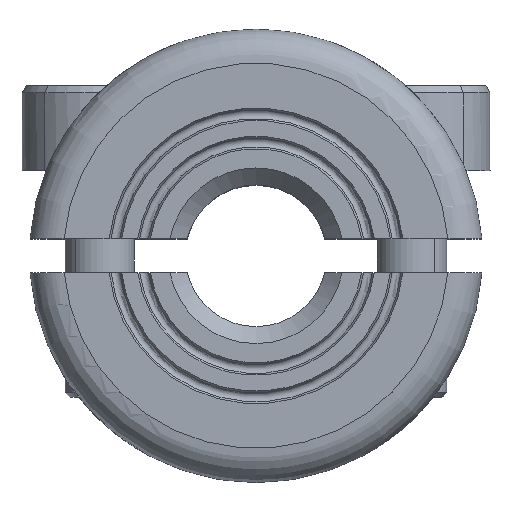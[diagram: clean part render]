
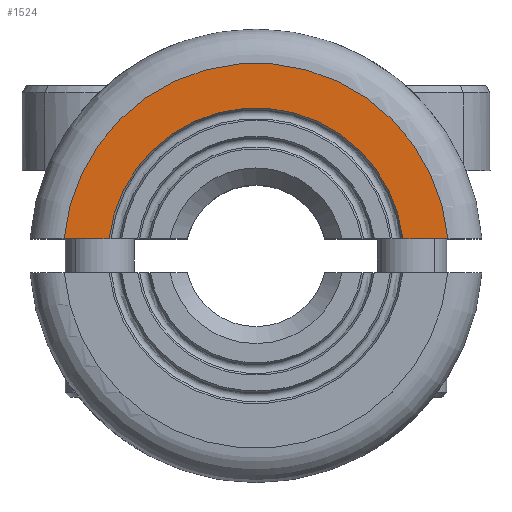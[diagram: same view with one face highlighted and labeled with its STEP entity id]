
A CAD part, top view. The second image highlights one B-rep face of the part: STEP entity #1524.
In plain terms, the highlighted planar face has unit normal (0, 0, 1).
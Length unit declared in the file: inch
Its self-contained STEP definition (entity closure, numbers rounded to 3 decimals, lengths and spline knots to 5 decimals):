
#131=CARTESIAN_POINT('',(0.26667,0.02362,0.35433));
#289=DIRECTION('',(-1.,0.,0.));
#290=VECTOR('',#289,0.06252);
#291=CARTESIAN_POINT('',(-0.20415,0.02362,
0.35433));
#292=LINE('',#291,#290);
#398=CARTESIAN_POINT('',(0.,0.,0.35433));
#399=DIRECTION('',(0.,0.,1.));
#400=DIRECTION('',(0.996,0.088,0.));
#401=AXIS2_PLACEMENT_3D('',#398,#399,#400);
#403=DIRECTION('',(1.,0.,0.));
#404=VECTOR('',#403,0.06252);
#405=CARTESIAN_POINT('',(0.20415,0.02362,
0.35433));
#406=LINE('',#405,#404);
#412=CARTESIAN_POINT('',(0.,0.,0.35433));
#413=DIRECTION('',(0.,0.,-1.));
#414=DIRECTION('',(-0.993,0.115,0.));
#415=AXIS2_PLACEMENT_3D('',#412,#413,#414);
#901=VERTEX_POINT('',#131);
#948=CARTESIAN_POINT('',(-0.20415,0.02362,
0.35433));
#949=CARTESIAN_POINT('',(-0.26667,0.02362,0.35433));
#950=VERTEX_POINT('',#948);
#951=VERTEX_POINT('',#949);
#952=CARTESIAN_POINT('',(0.20415,0.02362,
0.35433));
#953=VERTEX_POINT('',#952);
#1512=CARTESIAN_POINT('',(0.,0.,0.35433));
#1513=DIRECTION('',(0.,0.,1.));
#1514=DIRECTION('',(0.707,-0.707,0.));
#1515=AXIS2_PLACEMENT_3D('',#1512,#1513,#1514);
#1516=PLANE('',#1515);
#1518=ORIENTED_EDGE('',*,*,#1517,.F.);
#1519=ORIENTED_EDGE('',*,*,#1478,.T.);
#1520=ORIENTED_EDGE('',*,*,#1156,.F.);
#1521=ORIENTED_EDGE('',*,*,#1179,.F.);
#1522=EDGE_LOOP('',(#1518,#1519,#1520,#1521));
#1523=FACE_OUTER_BOUND('',#1522,.F.);
#402=CIRCLE('',#401,0.26772);
#416=CIRCLE('',#415,0.20551);
#1156=EDGE_CURVE('',#901,#951,#402,.T.);
#1179=EDGE_CURVE('',#953,#901,#406,.T.);
#1478=EDGE_CURVE('',#950,#951,#292,.T.);
#1517=EDGE_CURVE('',#950,#953,#416,.T.);
#1524=ADVANCED_FACE('',(#1523),#1516,.T.);
